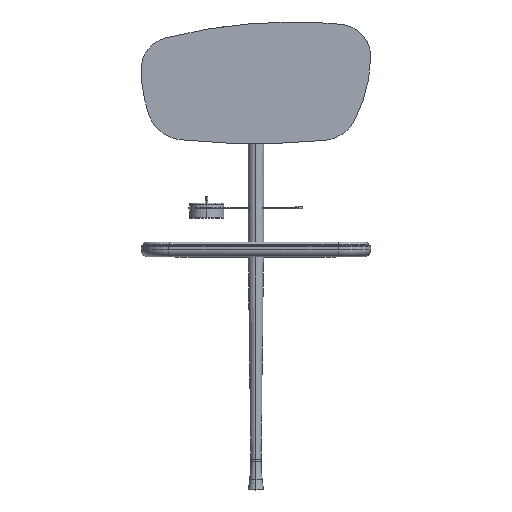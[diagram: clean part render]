
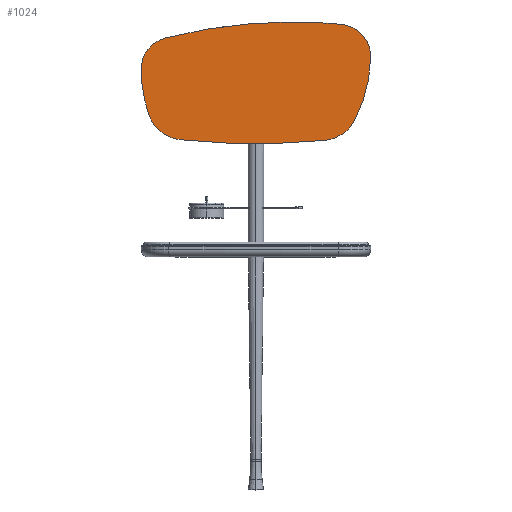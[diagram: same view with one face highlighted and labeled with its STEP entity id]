
A CAD part, top view. The second image highlights one B-rep face of the part: STEP entity #1024.
In plain terms, the highlighted planar face has unit normal (0, 0, 1).
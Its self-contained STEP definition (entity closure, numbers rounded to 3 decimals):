
#121 = AXIS2_PLACEMENT_3D ( 'NONE', #1268, #6158, #3521 ) ;
#184 = CARTESIAN_POINT ( 'NONE',  ( -97.048, 1290.039, 769.496 ) ) ;
#203 = DIRECTION ( 'NONE',  ( 1., 0., 0. ) ) ;
#228 = VERTEX_POINT ( 'NONE', #2498 ) ;
#232 = CARTESIAN_POINT ( 'NONE',  ( -280.181, 1337.264, 769.496 ) ) ;
#334 = CIRCLE ( 'NONE', #1556, 110. ) ;
#897 = CARTESIAN_POINT ( 'NONE',  ( -149.825, 793.463, 769.496 ) ) ;
#1006 = ORIENTED_EDGE ( 'NONE', *, *, #8222, .T. ) ;
#1024 = ADVANCED_FACE ( 'NONE', ( #8936 ), #4298, .T. ) ;
#1156 = EDGE_CURVE ( 'NONE', #228, #9585, #3798, .T. ) ;
#1160 = DIRECTION ( 'NONE',  ( 0., 0., 1. ) ) ;
#1268 = CARTESIAN_POINT ( 'NONE',  ( -2115.615, 1002.467, 769.496 ) ) ;
#1309 = CARTESIAN_POINT ( 'NONE',  ( -337.378, 738.68, 769.496 ) ) ;
#1386 = EDGE_CURVE ( 'NONE', #9757, #8379, #3806, .T. ) ;
#1428 = EDGE_CURVE ( 'NONE', #6823, #2168, #10523, .T. ) ;
#1556 = AXIS2_PLACEMENT_3D ( 'NONE', #897, #4846, #3344 ) ;
#1693 = CIRCLE ( 'NONE', #2797, 95. ) ;
#1751 = ORIENTED_EDGE ( 'NONE', *, *, #10864, .T. ) ;
#1906 = DIRECTION ( 'NONE',  ( 1., 0., 0. ) ) ;
#2168 = VERTEX_POINT ( 'NONE', #3398 ) ;
#2273 = VERTEX_POINT ( 'NONE', #232 ) ;
#2432 = CARTESIAN_POINT ( 'NONE',  ( -219.092, 1055.943, 769.496 ) ) ;
#2498 = CARTESIAN_POINT ( 'NONE',  ( -377.035, 1251.445, 769.496 ) ) ;
#2598 = AXIS2_PLACEMENT_3D ( 'NONE', #7678, #3572, #10484 ) ;
#2776 = AXIS2_PLACEMENT_3D ( 'NONE', #5594, #3729, #3140 ) ;
#2797 = AXIS2_PLACEMENT_3D ( 'NONE', #5598, #7088, #6890 ) ;
#3140 = DIRECTION ( 'NONE',  ( 1., 0., 0. ) ) ;
#3256 = EDGE_CURVE ( 'NONE', #9585, #6996, #9931, .T. ) ;
#3344 = DIRECTION ( 'NONE',  ( 1., 0., 0. ) ) ;
#3398 = CARTESIAN_POINT ( 'NONE',  ( -114.04, 689.446, 769.496 ) ) ;
#3521 = DIRECTION ( 'NONE',  ( 1., 0., 0. ) ) ;
#3572 = DIRECTION ( 'NONE',  ( 0., 0., 1. ) ) ;
#3729 = DIRECTION ( 'NONE',  ( 0., 0., 1. ) ) ;
#3798 = CIRCLE ( 'NONE', #2598, 1488.028 ) ;
#3806 = CIRCLE ( 'NONE', #4160, 110. ) ;
#4059 = ORIENTED_EDGE ( 'NONE', *, *, #1156, .T. ) ;
#4160 = AXIS2_PLACEMENT_3D ( 'NONE', #7148, #6594, #1906 ) ;
#4296 = VERTEX_POINT ( 'NONE', #5698 ) ;
#4298 = PLANE ( 'NONE',  #6955 ) ;
#4301 = ORIENTED_EDGE ( 'NONE', *, *, #8662, .T. ) ;
#4846 = DIRECTION ( 'NONE',  ( 0., 0., 1. ) ) ;
#5594 = CARTESIAN_POINT ( 'NONE',  ( -282.477, 1242.292, 769.496 ) ) ;
#5598 = CARTESIAN_POINT ( 'NONE',  ( -245.351, 762.263, 769.496 ) ) ;
#5698 = CARTESIAN_POINT ( 'NONE',  ( -40.441, 781.833, 769.496 ) ) ;
#5769 = ORIENTED_EDGE ( 'NONE', *, *, #1428, .T. ) ;
#5921 = DIRECTION ( 'NONE',  ( 1., 0., 0. ) ) ;
#6107 = AXIS2_PLACEMENT_3D ( 'NONE', #8832, #1160, #9188 ) ;
#6158 = DIRECTION ( 'NONE',  ( 0., 0., 1. ) ) ;
#6192 = AXIS2_PLACEMENT_3D ( 'NONE', #10949, #11298, #5921 ) ;
#6425 = CIRCLE ( 'NONE', #8626, 417.998 ) ;
#6466 = ORIENTED_EDGE ( 'NONE', *, *, #1386, .T. ) ;
#6594 = DIRECTION ( 'NONE',  ( 0., 0., 1. ) ) ;
#6823 = VERTEX_POINT ( 'NONE', #8395 ) ;
#6890 = DIRECTION ( 'NONE',  ( 1., 0., 0. ) ) ;
#6904 = DIRECTION ( 'NONE',  ( 1., 0., 0. ) ) ;
#6955 = AXIS2_PLACEMENT_3D ( 'NONE', #2432, #8762, #6904 ) ;
#6996 = VERTEX_POINT ( 'NONE', #1309 ) ;
#7088 = DIRECTION ( 'NONE',  ( 0., 0., 1. ) ) ;
#7126 = CARTESIAN_POINT ( 'NONE',  ( -290.285, 919.388, 769.496 ) ) ;
#7148 = CARTESIAN_POINT ( 'NONE',  ( -147.9, 1192.499, 769.496 ) ) ;
#7446 = CARTESIAN_POINT ( 'NONE',  ( -38.409, 1203.073, 769.496 ) ) ;
#7678 = CARTESIAN_POINT ( 'NONE',  ( 1104.07, 1108.078, 769.496 ) ) ;
#7905 = CIRCLE ( 'NONE', #2776, 95. ) ;
#8084 = EDGE_LOOP ( 'NONE', ( #6466, #4301, #1751, #4059, #9566, #10381, #5769, #1006, #11452 ) ) ;
#8210 = EDGE_CURVE ( 'NONE', #6996, #6823, #1693, .T. ) ;
#8222 = EDGE_CURVE ( 'NONE', #2168, #4296, #334, .T. ) ;
#8379 = VERTEX_POINT ( 'NONE', #184 ) ;
#8395 = CARTESIAN_POINT ( 'NONE',  ( -244.933, 667.264, 769.496 ) ) ;
#8626 = AXIS2_PLACEMENT_3D ( 'NONE', #7126, #8798, #203 ) ;
#8662 = EDGE_CURVE ( 'NONE', #8379, #2273, #6425, .T. ) ;
#8762 = DIRECTION ( 'NONE',  ( 0., 0., 1. ) ) ;
#8798 = DIRECTION ( 'NONE',  ( 0., 0., 1. ) ) ;
#8832 = CARTESIAN_POINT ( 'NONE',  ( -246.73, 1075.145, 769.496 ) ) ;
#8936 = FACE_OUTER_BOUND ( 'NONE', #8084, .T. ) ;
#9084 = CARTESIAN_POINT ( 'NONE',  ( -383.958, 1108.078, 769.496 ) ) ;
#9188 = DIRECTION ( 'NONE',  ( 1., 0., 0. ) ) ;
#9394 = CIRCLE ( 'NONE', #121, 2086.87 ) ;
#9566 = ORIENTED_EDGE ( 'NONE', *, *, #3256, .T. ) ;
#9585 = VERTEX_POINT ( 'NONE', #9084 ) ;
#9757 = VERTEX_POINT ( 'NONE', #7446 ) ;
#9931 = CIRCLE ( 'NONE', #6192, 1488.028 ) ;
#10381 = ORIENTED_EDGE ( 'NONE', *, *, #8210, .T. ) ;
#10484 = DIRECTION ( 'NONE',  ( 1., 0., 0. ) ) ;
#10523 = CIRCLE ( 'NONE', #6107, 407.885 ) ;
#10816 = EDGE_CURVE ( 'NONE', #4296, #9757, #9394, .T. ) ;
#10864 = EDGE_CURVE ( 'NONE', #2273, #228, #7905, .T. ) ;
#10949 = CARTESIAN_POINT ( 'NONE',  ( 1104.07, 1108.078, 769.496 ) ) ;
#11298 = DIRECTION ( 'NONE',  ( 0., 0., 1. ) ) ;
#11452 = ORIENTED_EDGE ( 'NONE', *, *, #10816, .T. ) ;
